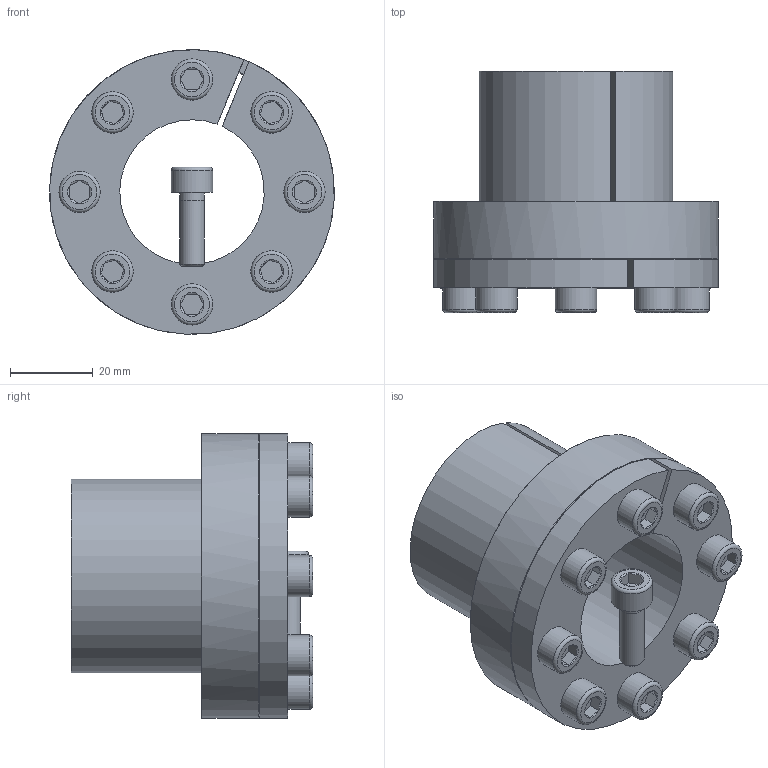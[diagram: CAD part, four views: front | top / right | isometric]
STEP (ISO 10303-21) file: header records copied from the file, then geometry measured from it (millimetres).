
FILE_DESCRIPTION( ( 'Unknown' ), '1' );
FILE_NAME( 'C:/Dokumente und Einstellungen/Sven/Desktop/homepage/cad - homepage/KBS80/KBS 80 - 35 x 47.stp', 'Unknown', ( 'Unknown' ), ( 'Unknown' ), 'XStep 1.0', 'Unknown', ' ' );
FILE_SCHEMA( ( 'automotive_design' ) );
Length unit declared in the file: millimetre
Products named in the file (10): Assem1; KBS 80 - 35 x 47; ISO EN DIN 4762 M6x18; ISO EN DIN 4762 M6x18-oa0; ISO EN DIN 4762 M6x18-oa1; ISO EN DIN 4762 M6x18-oa2; ISO EN DIN 4762 M6x18-oa3; ISO EN DIN 4762 M6x18-oa4; ISO EN DIN 4762 M6x18-oa5; ISO EN DIN 4762 M6x18-oa6
Bounding box: 69 x 58.5 x 69 mm (x, y, z)
Volume: 168544.6 mm3; surface area: 60062.9 mm2
Topology: 18 solids, 18 shells, 456 faces, 854 edges, 496 vertices
Faces by surface type: plane 208, cone 126, cylinder 90, torus 32
Full cylindrical faces by diameter (mm): 5 x16, 6 x48, 10 x16, 69 x2
Entity records: 5767 total; most frequent: CARTESIAN_POINT 1201, DIRECTION 932, ORIENTED_EDGE 682, AXIS2_PLACEMENT_3D 409, EDGE_LOOP 345, EDGE_CURVE 341, FACE_OUTER_BOUND 285, VERTEX_POINT 230
